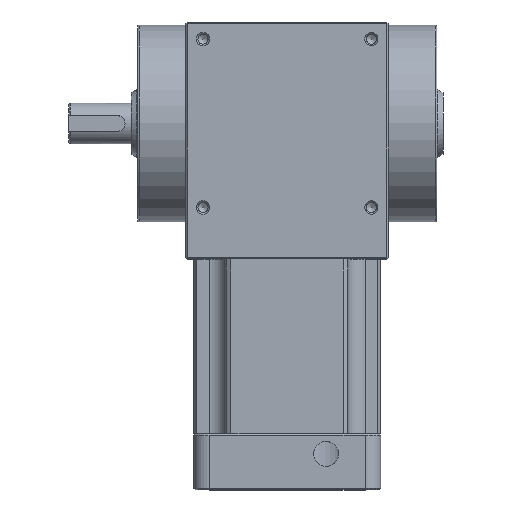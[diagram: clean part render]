
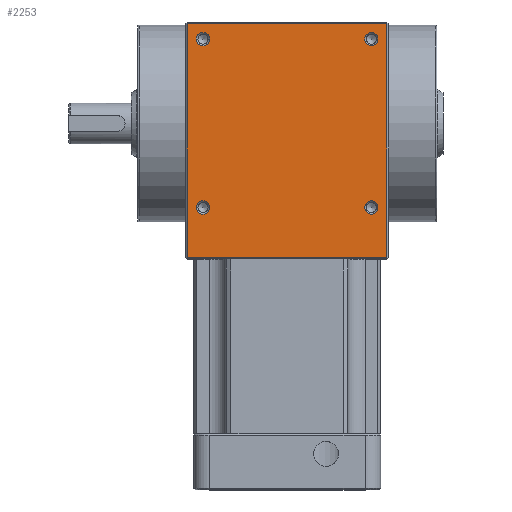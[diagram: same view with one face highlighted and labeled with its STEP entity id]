
A CAD part, top view. The second image highlights one B-rep face of the part: STEP entity #2253.
In plain terms, the highlighted planar face has unit normal (0, 0, 1).
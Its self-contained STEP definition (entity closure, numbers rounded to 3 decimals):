
#2134=CARTESIAN_POINT('',(-32.0,-43.0,65.0));
#2135=VERTEX_POINT('',#2134);
#2142=CARTESIAN_POINT('',(-32.0,32.,65.0));
#2143=VERTEX_POINT('',#2142);
#2144=CARTESIAN_POINT('',(-32.0,32.,65.0));
#2145=DIRECTION('',(0.0,-1.0,0.0));
#2146=VECTOR('',#2145,75.);
#2147=LINE('',#2144,#2146);
#2148=EDGE_CURVE('',#2143,#2135,#2147,.T.);
#2166=CARTESIAN_POINT('',(32.0,-43.0,65.0));
#2167=VERTEX_POINT('',#2166);
#2174=CARTESIAN_POINT('',(32.0,-43.0,65.0));
#2175=DIRECTION('',(-1.0,0.0,0.0));
#2176=VECTOR('',#2175,64.0);
#2177=LINE('',#2174,#2176);
#2178=EDGE_CURVE('',#2167,#2135,#2177,.T.);
#2186=CARTESIAN_POINT('',(0.,0.0,65.0));
#2187=DIRECTION('',(0.0,0.0,1.0));
#2188=DIRECTION('',(1.0,0.0,0.0));
#2189=AXIS2_PLACEMENT_3D('',#2186,#2187,#2188);
#2190=PLANE('',#2189);
#2191=ORIENTED_EDGE('',*,*,#2178,.F.);
#2192=CARTESIAN_POINT('',(32.0,32.0,65.0));
#2193=VERTEX_POINT('',#2192);
#2194=CARTESIAN_POINT('',(32.0,32.0,65.0));
#2195=DIRECTION('',(0.0,-1.0,0.0));
#2196=VECTOR('',#2195,75.0);
#2197=LINE('',#2194,#2196);
#2198=EDGE_CURVE('',#2193,#2167,#2197,.T.);
#2199=ORIENTED_EDGE('',*,*,#2198,.F.);
#2200=CARTESIAN_POINT('',(-32.0,32.0,65.0));
#2201=DIRECTION('',(1.0,0.0,0.0));
#2202=VECTOR('',#2201,64.0);
#2203=LINE('',#2200,#2202);
#2204=EDGE_CURVE('',#2143,#2193,#2203,.T.);
#2205=ORIENTED_EDGE('',*,*,#2204,.F.);
#2206=ORIENTED_EDGE('',*,*,#2148,.T.);
#2207=EDGE_LOOP('',(#2191,#2199,#2205,#2206));
#2208=FACE_OUTER_BOUND('',#2207,.T.);
#2209=CARTESIAN_POINT('',(-24.879,-27.0,65.0));
#2210=VERTEX_POINT('',#2209);
#2211=CARTESIAN_POINT('',(-27.,-27.0,65.0));
#2212=DIRECTION('',(0.0,0.0,1.0));
#2213=DIRECTION('',(-1.0,0.0,0.0));
#2214=AXIS2_PLACEMENT_3D('',#2211,#2212,#2213);
#2215=CIRCLE('',#2214,2.121);
#2216=EDGE_CURVE('',#2210,#2210,#2215,.T.);
#2217=ORIENTED_EDGE('',*,*,#2216,.F.);
#2218=EDGE_LOOP('',(#2217));
#2219=FACE_BOUND('',#2218,.T.);
#2220=CARTESIAN_POINT('',(29.121,27.0,65.0));
#2221=VERTEX_POINT('',#2220);
#2222=CARTESIAN_POINT('',(27.0,27.0,65.0));
#2223=DIRECTION('',(0.0,0.0,1.0));
#2224=DIRECTION('',(-1.0,0.0,0.0));
#2225=AXIS2_PLACEMENT_3D('',#2222,#2223,#2224);
#2226=CIRCLE('',#2225,2.121);
#2227=EDGE_CURVE('',#2221,#2221,#2226,.T.);
#2228=ORIENTED_EDGE('',*,*,#2227,.F.);
#2229=EDGE_LOOP('',(#2228));
#2230=FACE_BOUND('',#2229,.T.);
#2231=CARTESIAN_POINT('',(-24.879,27.0,65.0));
#2232=VERTEX_POINT('',#2231);
#2233=CARTESIAN_POINT('',(-27.,27.0,65.0));
#2234=DIRECTION('',(0.0,0.0,1.0));
#2235=DIRECTION('',(-1.0,0.0,0.0));
#2236=AXIS2_PLACEMENT_3D('',#2233,#2234,#2235);
#2237=CIRCLE('',#2236,2.121);
#2238=EDGE_CURVE('',#2232,#2232,#2237,.T.);
#2239=ORIENTED_EDGE('',*,*,#2238,.F.);
#2240=EDGE_LOOP('',(#2239));
#2241=FACE_BOUND('',#2240,.T.);
#2242=CARTESIAN_POINT('',(29.121,-27.0,65.0));
#2243=VERTEX_POINT('',#2242);
#2244=CARTESIAN_POINT('',(27.,-27.0,65.0));
#2245=DIRECTION('',(0.0,0.0,1.0));
#2246=DIRECTION('',(-1.0,0.0,0.0));
#2247=AXIS2_PLACEMENT_3D('',#2244,#2245,#2246);
#2248=CIRCLE('',#2247,2.121);
#2249=EDGE_CURVE('',#2243,#2243,#2248,.T.);
#2250=ORIENTED_EDGE('',*,*,#2249,.F.);
#2251=EDGE_LOOP('',(#2250));
#2252=FACE_BOUND('',#2251,.T.);
#2253=ADVANCED_FACE('',(#2208,#2219,#2230,#2241,#2252),#2190,.T.);
